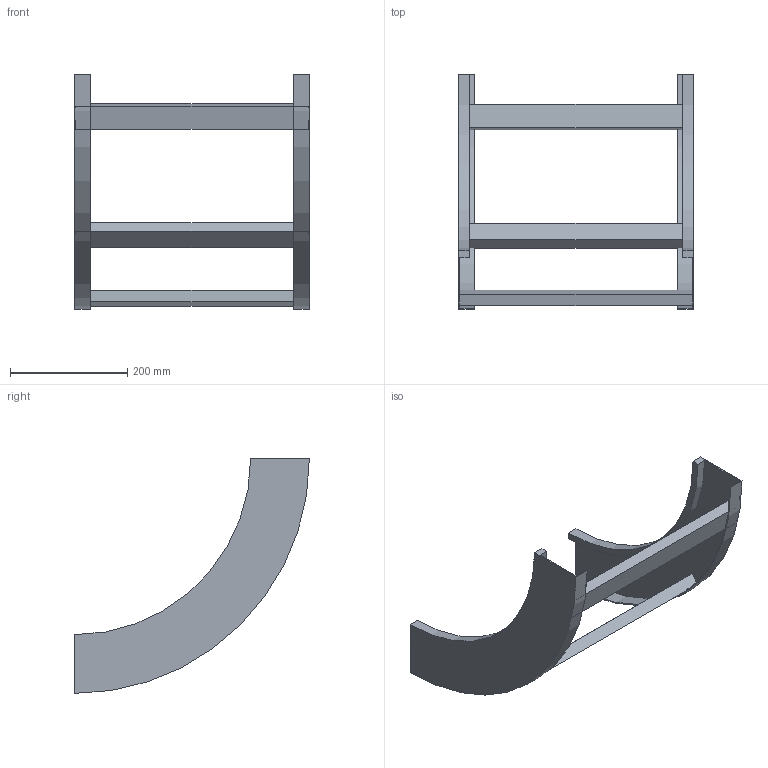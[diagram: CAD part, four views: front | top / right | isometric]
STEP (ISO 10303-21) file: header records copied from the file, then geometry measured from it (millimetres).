
FILE_DESCRIPTION (( 'STEP AP214' ), '1' );
FILE_NAME ('B2X30B3D400XX.step', '2025-03-20T10:20:13', ( '' ), ( '' ), 'SwSTEP 2.0', 'SolidWorks 2023', '' );
FILE_SCHEMA (( 'AUTOMOTIVE_DESIGN' ));
Length unit declared in the file: millimetre
Products named in the file (3): TRAVERSINO_400; B2X30B3D400XX; B2_LONGH.SALITA_90°_H100_R300
Assembly tree (5 placements, depth 2):
  B2X30B3D400XX
    B2_LONGH.SALITA_90°_H100_R300  x2
    TRAVERSINO_400  x3
Bounding box: 400 x 400 x 400 mm (x, y, z)
Volume: 1429441.1 mm3; surface area: 468123 mm2
Topology: 5 solids, 5 shells, 38 faces, 84 edges, 56 vertices
Faces by surface type: plane 30, cylinder 8
Entity records: 560 total; most frequent: DIRECTION 92, CARTESIAN_POINT 84, ORIENTED_EDGE 72, EDGE_CURVE 36, AXIS2_PLACEMENT_3D 32, VECTOR 28, LINE 28, VERTEX_POINT 24
